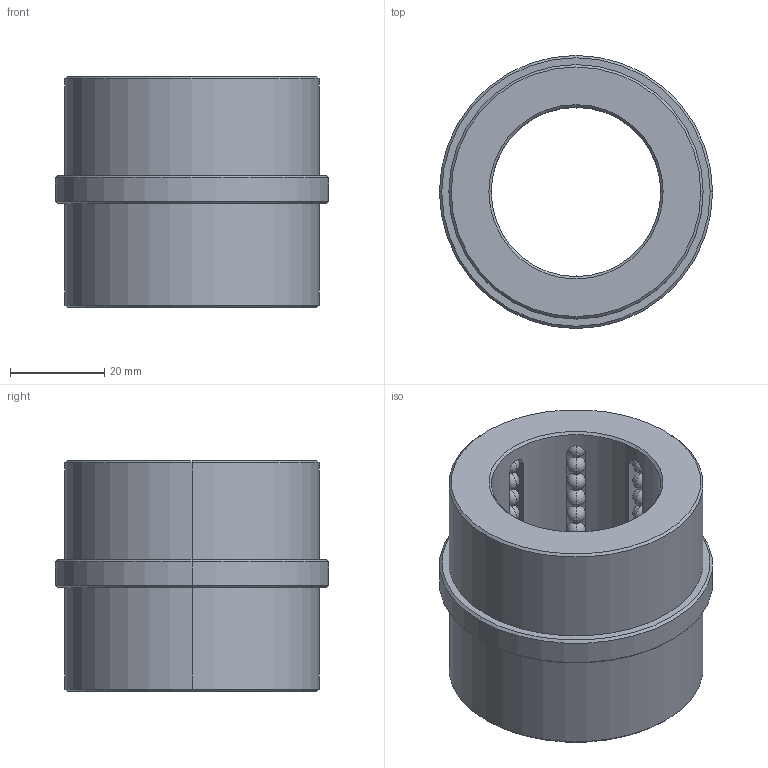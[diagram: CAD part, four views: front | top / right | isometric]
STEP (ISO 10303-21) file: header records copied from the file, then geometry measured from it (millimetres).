
FILE_DESCRIPTION((''),'2;1');
FILE_NAME('B8453627','2018-01-24T',('MANU'),(''),'PRO/ENGINEER BY PARAMETRIC TECHNOLOGY CORPORATION, 2012130','PRO/ENGINEER BY PARAMETRIC TECHNOLOGY CORPORATION, 2012130','');
FILE_SCHEMA(('CONFIG_CONTROL_DESIGN'));
Length unit declared in the file: millimetre
Products named in the file (1): B8453627
Bounding box: 58 x 58 x 49 mm (x, y, z)
Volume: 61873.2 mm3; surface area: 23740.8 mm2
Topology: 81 solids, 81 shells, 224 faces, 630 edges, 256 vertices
Faces by surface type: sphere 160, plane 28, cylinder 24, cone 12
Entity records: 5184 total; most frequent: CARTESIAN_POINT 1110, DIRECTION 942, ORIENTED_EDGE 620, AXIS2_PLACEMENT_3D 428, EDGE_CURVE 310, VERTEX_POINT 256, EDGE_LOOP 234, FACE_OUTER_BOUND 224
